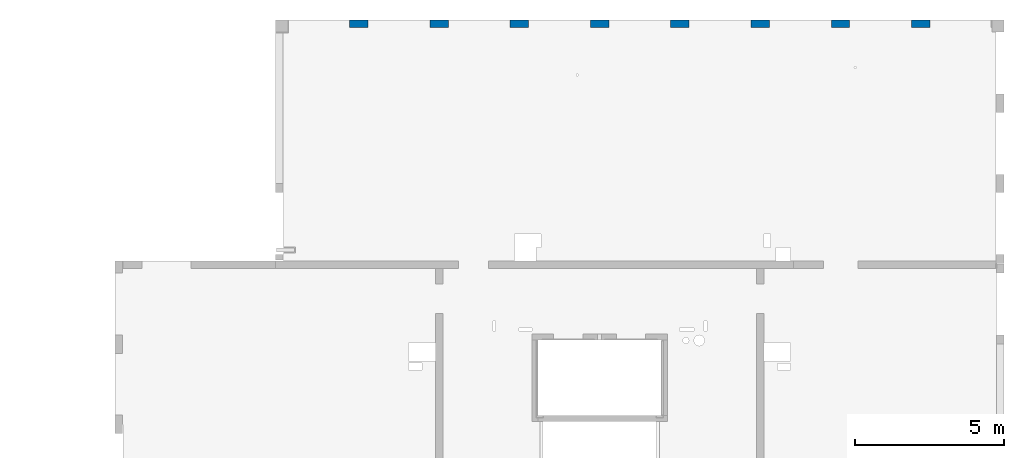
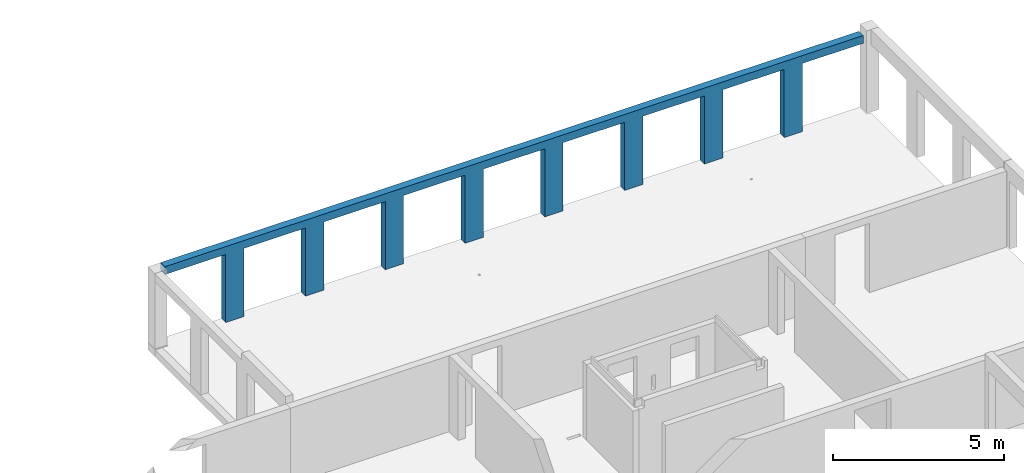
# One storey, part 7 of 11: 1 wall, 9 openings.
"""IFC2X3 building model written with IfcOpenShell, lengths in millimetres."""

from ifc_helpers import new_model, entity, si_unit, converted_unit, derived_unit, direction, frame, frame_2d, origin, place, context, subcontext, project, spatial, rectangle, extrude, material, layer, layer_set, layer_usage, type_object, element, save


model = new_model("IFC2X3")

# Units and contexts
model_context = context("Model", 3, precision=0.01, world=origin(), true_north=direction((6.12303176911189e-17, 1.0)))
body_context = subcontext(model_context, "Body", "Model", "MODEL_VIEW")
ifc_project = project(units=[si_unit("LENGTHUNIT", "METRE", prefix="MILLI"), si_unit("AREAUNIT", "SQUARE_METRE"), si_unit("VOLUMEUNIT", "CUBIC_METRE"), converted_unit("PLANEANGLEUNIT", "DEGREE", entity("IfcRatioMeasure", 0.0174532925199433), si_unit("PLANEANGLEUNIT", "RADIAN"), dimensions=[0, 0, 0, 0, 0, 0, 0]), si_unit("MASSUNIT", "GRAM", prefix="KILO"), derived_unit("MASSDENSITYUNIT", [(si_unit("MASSUNIT", "GRAM", prefix="KILO"), 1), (si_unit("LENGTHUNIT", "METRE"), -3)]), si_unit("TIMEUNIT", "SECOND"), si_unit("FREQUENCYUNIT", "HERTZ"), si_unit("THERMODYNAMICTEMPERATUREUNIT", "DEGREE_CELSIUS"), derived_unit("THERMALTRANSMITTANCEUNIT", [(si_unit("MASSUNIT", "GRAM", prefix="KILO"), 1), (si_unit("THERMODYNAMICTEMPERATUREUNIT", "KELVIN"), -1), (si_unit("TIMEUNIT", "SECOND"), -3)]), derived_unit("VOLUMETRICFLOWRATEUNIT", [(si_unit("LENGTHUNIT", "METRE"), 3), (si_unit("TIMEUNIT", "SECOND"), -1)]), si_unit("ELECTRICCURRENTUNIT", "AMPERE"), si_unit("ELECTRICVOLTAGEUNIT", "VOLT"), si_unit("POWERUNIT", "WATT"), si_unit("FORCEUNIT", "NEWTON", prefix="KILO"), si_unit("ILLUMINANCEUNIT", "LUX"), si_unit("LUMINOUSFLUXUNIT", "LUMEN"), si_unit("LUMINOUSINTENSITYUNIT", "CANDELA"), derived_unit("USERDEFINED", [(si_unit("MASSUNIT", "GRAM", prefix="KILO"), -1), (si_unit("LENGTHUNIT", "METRE"), -2), (si_unit("TIMEUNIT", "SECOND"), 3), (si_unit("LUMINOUSFLUXUNIT", "LUMEN"), 1)]), derived_unit("LINEARVELOCITYUNIT", [(si_unit("LENGTHUNIT", "METRE"), 1), (si_unit("TIMEUNIT", "SECOND"), -1)]), si_unit("PRESSUREUNIT", "PASCAL"), derived_unit("USERDEFINED", [(si_unit("LENGTHUNIT", "METRE"), -2), (si_unit("MASSUNIT", "GRAM", prefix="KILO"), 1), (si_unit("TIMEUNIT", "SECOND"), -2)])], contexts=[model_context])

# Site, building, storey
site_placement = place(None, origin())
site = spatial("IfcSite", under=ifc_project, at=site_placement, Name="Default", CompositionType="ELEMENT")
building_placement = place(site_placement, origin())
building = spatial("IfcBuilding", under=site, at=building_placement, Name="niet gebruiken", CompositionType="ELEMENT")
storey_placement = place(building_placement, frame((0.0, 0.0, 57150.0)))
storey = spatial("IfcBuildingStorey", under=building, at=storey_placement, Name="19 negentiende verdieping", CompositionType="ELEMENT", Elevation=57150.0)

# Wall, openings
ifc_material = material(Name="NLRS_f2_beton ihwg")
ifc_layer = layer(ifc_material, 250.0)
ifc_layer_set = layer_set([ifc_layer], Name="Basic Wall:NLRS_21.21_WA_beton ihwg d=250_gen")
ifc_layer_usage = layer_usage(ifc_layer_set, "AXIS2", "NEGATIVE", 125.0)
wall_type = type_object("IfcWallType", Name="Basic Wall:NLRS_21.21_WA_beton ihwg d=250_gen", PredefinedType="STANDARD", material=ifc_layer_set)
wall_placement = place(storey_placement, frame((104970.0, 53131.0, -90.0), z_axis=(0.0, 0.0, 1.0), x_axis=(-1.0, 0.0, 0.0)))
wall = element("IfcWallStandardCase", 1, at=wall_placement, inside=storey, type_object=wall_type, material=ifc_layer_usage, Name="Basic Wall:NLRS_21.21_WA_beton ihwg d=250_gen", ObjectType="Basic Wall:NLRS_21.21_WA_beton ihwg d=250_gen", context=body_context, shape_type="SweptSolid", body=[
    extrude(rectangle(XDim=23640.0000000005, YDim=249.999999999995, at=frame_2d((11820.0000000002, 5.82645043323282e-13), x_axis=(-1.0, 0.0))), origin(), (0.0, 0.0, 1.0), 2720.00000000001),
])
opening_1_placement = place(wall_placement, origin())
element("IfcOpeningElement", 2, at=opening_1_placement, cuts=wall, Name="Basic Wall:NLRS_21.21_WA_beton ihwg d=250_gen", ObjectType="Opening", context=body_context, shape_type="SweptSolid", body=[
    extrude(rectangle(XDim=2440.0, YDim=2080.0, at=frame_2d((8.64019966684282e-12, 0.0), x_axis=(0.0, 1.0))), frame((22620.0, -1399.0, 1220.0), z_axis=(0.0, 1.0, 0.0), x_axis=(-1.0, 0.0, 0.0)), (0.0, 0.0, 1.0), 3048.0),
])
opening_2_placement = place(wall_placement, origin())
element("IfcOpeningElement", 3, at=opening_2_placement, cuts=wall, Name="Basic Wall:NLRS_21.21_WA_beton ihwg d=250_gen", ObjectType="Opening", context=body_context, shape_type="SweptSolid", body=[
    extrude(rectangle(XDim=2440.0, YDim=2080.0, at=frame_2d((-8.64019966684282e-12, 0.0), x_axis=(0.0, 1.0))), frame((19920.0, -1399.0, 1220.0), z_axis=(0.0, 1.0, 0.0), x_axis=(-1.0, 0.0, 0.0)), (0.0, 0.0, 1.0), 3048.0),
])
opening_3_placement = place(wall_placement, origin())
element("IfcOpeningElement", 4, at=opening_3_placement, cuts=wall, Name="Basic Wall:NLRS_21.21_WA_beton ihwg d=250_gen", ObjectType="Opening", context=body_context, shape_type="SweptSolid", body=[
    extrude(rectangle(XDim=2440.0, YDim=2080.0, at=frame_2d((-8.64019966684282e-12, 0.0), x_axis=(0.0, 1.0))), frame((17220.0, -1399.0, 1220.0), z_axis=(0.0, 1.0, 0.0), x_axis=(-1.0, 0.0, 0.0)), (0.0, 0.0, 1.0), 3048.0),
])
opening_4_placement = place(wall_placement, origin())
element("IfcOpeningElement", 5, at=opening_4_placement, cuts=wall, Name="Basic Wall:NLRS_21.21_WA_beton ihwg d=250_gen", ObjectType="Opening", context=body_context, shape_type="SweptSolid", body=[
    extrude(rectangle(XDim=2440.0, YDim=2080.0, at=frame_2d((8.64019966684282e-12, 0.0), x_axis=(0.0, 1.0))), frame((14520.0, -1399.0, 1220.0), z_axis=(0.0, 1.0, 0.0), x_axis=(-1.0, 0.0, 0.0)), (0.0, 0.0, 1.0), 3048.0),
])
opening_5_placement = place(wall_placement, origin())
element("IfcOpeningElement", 6, at=opening_5_placement, cuts=wall, Name="Basic Wall:NLRS_21.21_WA_beton ihwg d=250_gen", ObjectType="Opening", context=body_context, shape_type="SweptSolid", body=[
    extrude(rectangle(XDim=2440.0, YDim=2080.0, at=frame_2d((-8.64019966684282e-12, 0.0), x_axis=(0.0, 1.0))), frame((11820.0, -1399.0, 1220.0), z_axis=(0.0, 1.0, 0.0), x_axis=(-1.0, 0.0, 0.0)), (0.0, 0.0, 1.0), 3048.0),
])
opening_6_placement = place(wall_placement, origin())
element("IfcOpeningElement", 7, at=opening_6_placement, cuts=wall, Name="Basic Wall:NLRS_21.21_WA_beton ihwg d=250_gen", ObjectType="Opening", context=body_context, shape_type="SweptSolid", body=[
    extrude(rectangle(XDim=2440.0, YDim=2080.0, at=frame_2d((-8.64019966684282e-12, 0.0), x_axis=(0.0, 1.0))), frame((9120.0, -1399.0, 1220.0), z_axis=(0.0, 1.0, 0.0), x_axis=(-1.0, 0.0, 0.0)), (0.0, 0.0, 1.0), 3048.0),
])
opening_7_placement = place(wall_placement, origin())
element("IfcOpeningElement", 8, at=opening_7_placement, cuts=wall, Name="Basic Wall:NLRS_21.21_WA_beton ihwg d=250_gen", ObjectType="Opening", context=body_context, shape_type="SweptSolid", body=[
    extrude(rectangle(XDim=2440.0, YDim=2080.0, at=frame_2d((8.64019966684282e-12, 0.0), x_axis=(0.0, 1.0))), frame((6420.0, -1399.0, 1220.0), z_axis=(0.0, 1.0, 0.0), x_axis=(-1.0, 0.0, 0.0)), (0.0, 0.0, 1.0), 3048.0),
])
opening_8_placement = place(wall_placement, origin())
element("IfcOpeningElement", 9, at=opening_8_placement, cuts=wall, Name="Basic Wall:NLRS_21.21_WA_beton ihwg d=250_gen", ObjectType="Opening", context=body_context, shape_type="SweptSolid", body=[
    extrude(rectangle(XDim=2440.0, YDim=2080.0, at=frame_2d((8.64019966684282e-12, 0.0), x_axis=(0.0, 1.0))), frame((3720.0, -1399.0, 1220.0), z_axis=(0.0, 1.0, 0.0), x_axis=(-1.0, 0.0, 0.0)), (0.0, 0.0, 1.0), 3048.0),
])
opening_9_placement = place(wall_placement, origin())
element("IfcOpeningElement", 10, at=opening_9_placement, cuts=wall, Name="Basic Wall:NLRS_21.21_WA_beton ihwg d=250_gen", ObjectType="Opening", context=body_context, shape_type="SweptSolid", body=[
    extrude(rectangle(XDim=2440.0, YDim=2080.0, at=frame_2d((-8.64019966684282e-12, 0.0), x_axis=(0.0, 1.0))), frame((1020.0, -1399.0, 1220.0), z_axis=(0.0, 1.0, 0.0), x_axis=(-1.0, 0.0, 0.0)), (0.0, 0.0, 1.0), 3048.0),
])

save(model, "model.ifc")
